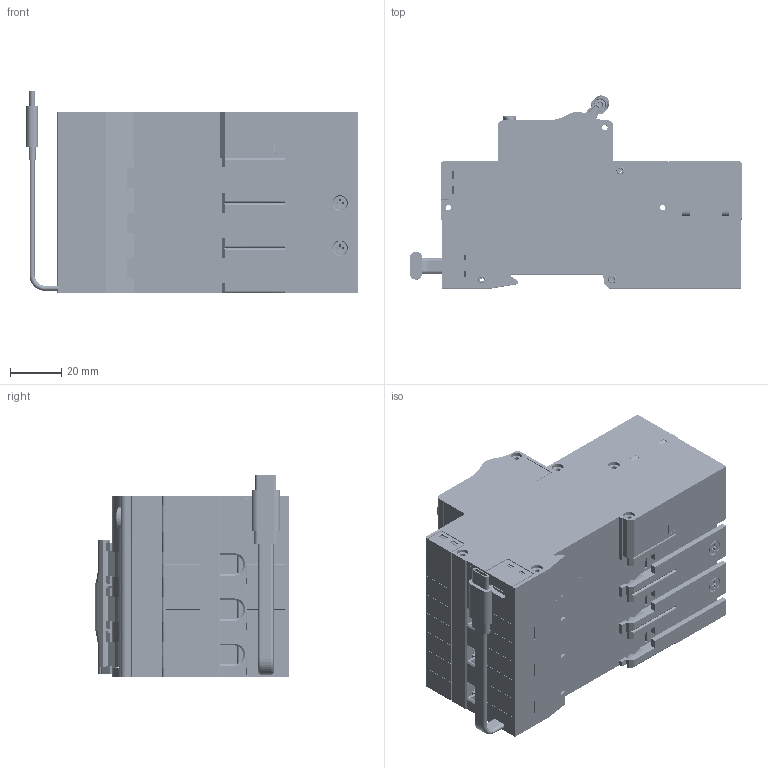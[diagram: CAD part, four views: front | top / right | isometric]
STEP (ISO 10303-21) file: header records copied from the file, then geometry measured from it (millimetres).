
FILE_DESCRIPTION (( 'STEP AP214' ), '1' );
FILE_NAME ('NDB5EL-80 3P.step', '2023-12-13T05:36:33', ( '' ), ( '' ), 'SwSTEP 2.0', 'SolidWorks 2018', '' );
FILE_SCHEMA (( 'AUTOMOTIVE_DESIGN' ));
Length unit declared in the file: millimetre
Products named in the file (1): NDB5EL-80 3P
Bounding box: 129.37 x 75.38 x 79.01 mm (x, y, z)
Volume: 188308.4 mm3; surface area: 283241.2 mm2
Topology: 71 solids, 74 shells, 15419 faces, 42710 edges, 27949 vertices
Faces by surface type: plane 10011, cylinder 3269, cone 1253, bspline 606, torus 280
Entity records: 702986 total; most frequent: CARTESIAN_POINT 143050, ORIENTED_EDGE 85412, DIRECTION 74765, EDGE_CURVE 42706, VECTOR 30393, LINE 30393, VERTEX_POINT 27949, AXIS2_PLACEMENT_3D 22186
